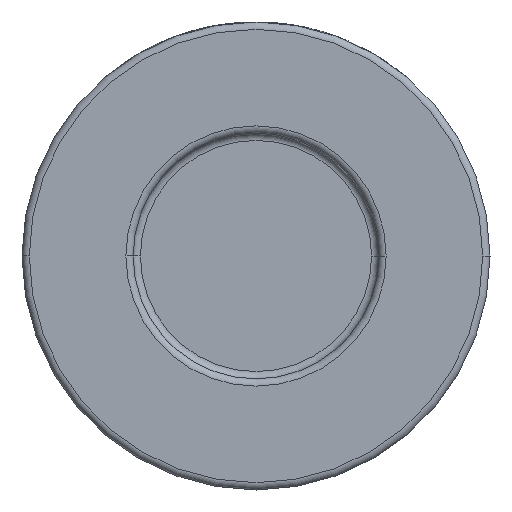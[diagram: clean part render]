
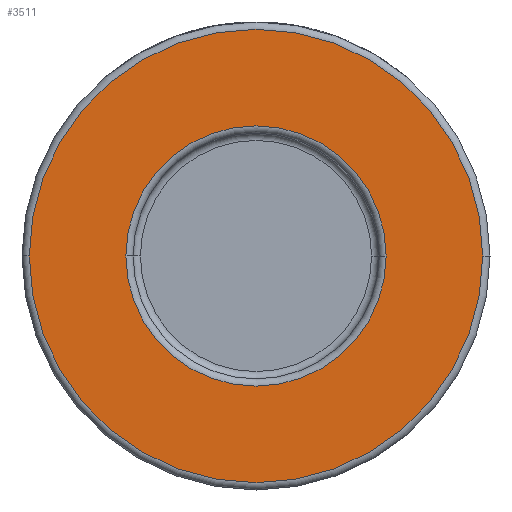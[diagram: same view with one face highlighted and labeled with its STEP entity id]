
A CAD part, front view. The second image highlights one B-rep face of the part: STEP entity #3511.
In plain terms, the highlighted planar face has unit normal (0, -1, 0).
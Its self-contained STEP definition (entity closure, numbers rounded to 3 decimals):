
#163 = ORIENTED_EDGE ( 'NONE', *, *, #2406, .T. ) ;
#182 = EDGE_CURVE ( 'NONE', #2894, #3281, #2325, .T. ) ;
#538 = CARTESIAN_POINT ( 'NONE',  ( 0., -22., 0. ) ) ;
#651 = AXIS2_PLACEMENT_3D ( 'NONE', #2085, #1856, #3925 ) ;
#691 = DIRECTION ( 'NONE',  ( 0., -1., 0. ) ) ;
#771 = VERTEX_POINT ( 'NONE', #4168 ) ;
#957 = EDGE_CURVE ( 'NONE', #3281, #2894, #4367, .T. ) ;
#1017 = AXIS2_PLACEMENT_3D ( 'NONE', #1428, #2135, #3476 ) ;
#1386 = DIRECTION ( 'NONE',  ( 1., 0., 0. ) ) ;
#1387 = FACE_OUTER_BOUND ( 'NONE', #1653, .T. ) ;
#1428 = CARTESIAN_POINT ( 'NONE',  ( 32., -22., 0. ) ) ;
#1642 = ORIENTED_EDGE ( 'NONE', *, *, #182, .T. ) ;
#1653 = EDGE_LOOP ( 'NONE', ( #1642, #4355 ) ) ;
#1682 = DIRECTION ( 'NONE',  ( 0., -1., 0. ) ) ;
#1856 = DIRECTION ( 'NONE',  ( 0., 1., 0. ) ) ;
#1899 = CIRCLE ( 'NONE', #651, 17.8 ) ;
#1912 = VERTEX_POINT ( 'NONE', #3322 ) ;
#2085 = CARTESIAN_POINT ( 'NONE',  ( 0., -22., 0. ) ) ;
#2135 = DIRECTION ( 'NONE',  ( 0., -1., 0. ) ) ;
#2167 = AXIS2_PLACEMENT_3D ( 'NONE', #2825, #1682, #2761 ) ;
#2272 = DIRECTION ( 'NONE',  ( 1., 0., 0. ) ) ;
#2325 = CIRCLE ( 'NONE', #3124, 31. ) ;
#2406 = EDGE_CURVE ( 'NONE', #771, #1912, #2553, .T. ) ;
#2541 = CARTESIAN_POINT ( 'NONE',  ( 31., -22., 0. ) ) ;
#2553 = CIRCLE ( 'NONE', #4381, 17.8 ) ;
#2761 = DIRECTION ( 'NONE',  ( 1., 0., 0. ) ) ;
#2765 = FACE_BOUND ( 'NONE', #4043, .T. ) ;
#2791 = PLANE ( 'NONE',  #1017 ) ;
#2825 = CARTESIAN_POINT ( 'NONE',  ( 0., -22., 0. ) ) ;
#2894 = VERTEX_POINT ( 'NONE', #2541 ) ;
#3124 = AXIS2_PLACEMENT_3D ( 'NONE', #3585, #691, #1386 ) ;
#3281 = VERTEX_POINT ( 'NONE', #3667 ) ;
#3322 = CARTESIAN_POINT ( 'NONE',  ( 17.8, -22., 0. ) ) ;
#3476 = DIRECTION ( 'NONE',  ( 1., 0., 0. ) ) ;
#3511 = ADVANCED_FACE ( 'NONE', ( #2765, #1387 ), #2791, .T. ) ;
#3585 = CARTESIAN_POINT ( 'NONE',  ( 0., -22., 0. ) ) ;
#3667 = CARTESIAN_POINT ( 'NONE',  ( -31., -22., 0. ) ) ;
#3925 = DIRECTION ( 'NONE',  ( 1., 0., 0. ) ) ;
#3930 = ORIENTED_EDGE ( 'NONE', *, *, #4206, .T. ) ;
#4043 = EDGE_LOOP ( 'NONE', ( #3930, #163 ) ) ;
#4064 = DIRECTION ( 'NONE',  ( 0., 1., 0. ) ) ;
#4168 = CARTESIAN_POINT ( 'NONE',  ( -17.8, -22., 0. ) ) ;
#4206 = EDGE_CURVE ( 'NONE', #1912, #771, #1899, .T. ) ;
#4355 = ORIENTED_EDGE ( 'NONE', *, *, #957, .T. ) ;
#4367 = CIRCLE ( 'NONE', #2167, 31. ) ;
#4381 = AXIS2_PLACEMENT_3D ( 'NONE', #538, #4064, #2272 ) ;
